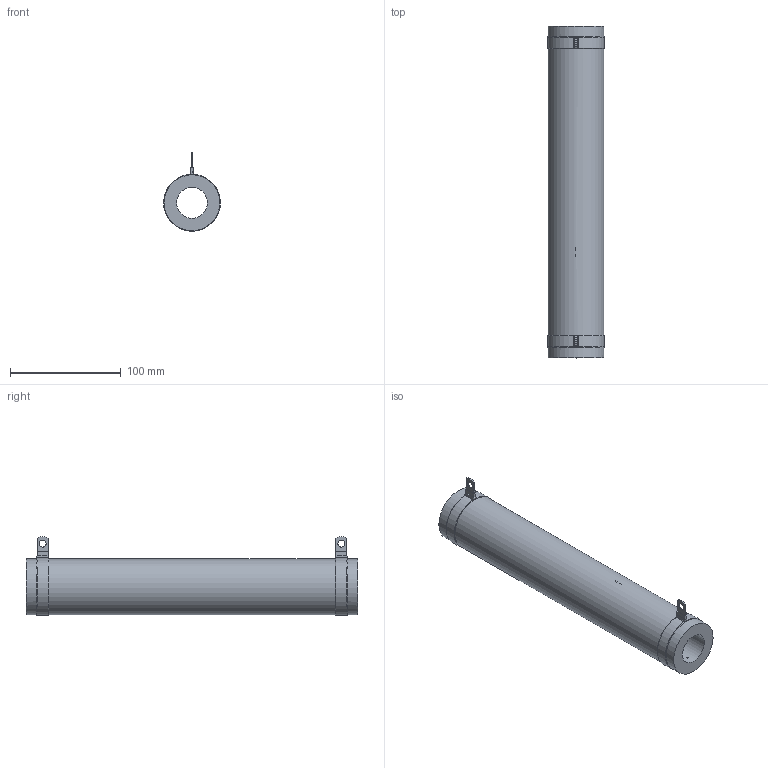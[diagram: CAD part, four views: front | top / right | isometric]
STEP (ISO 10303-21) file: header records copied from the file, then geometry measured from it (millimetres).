
FILE_DESCRIPTION(/* description */ (''),/* implementation_level */ '2;1');
FILE_NAME(/* name */ 'C:\_Vault\Dati\CATALOGO\RCA-RSA\25-1000\CA0500.stp',/* time_stamp */ '2014-01-22T15:25:15+01:00',/* author */ ('stefano'),/* organization */ (''),/* preprocessor_version */ 'ST-DEVELOPER v15.2',/* originating_system */ 'Autodesk Inventor 2014',/* authorisation */ '');
FILE_SCHEMA (('AUTOMOTIVE_DESIGN { 1 0 10303 214 3 1 1 }'));
Length unit declared in the file: millimetre
Products named in the file (1): CA0500
Bounding box: 51.46 x 300 x 70.99 mm (x, y, z)
Volume: 418338.1 mm3; surface area: 78063.2 mm2
Topology: 1 solids, 1 shells, 89 faces, 221 edges, 138 vertices
Faces by surface type: plane 45, cylinder 32, torus 12
Full cylindrical faces by diameter (mm): 3.2 x1, 6.3 x2, 28 x1, 50.5 x3
Entity records: 2806 total; most frequent: CARTESIAN_POINT 522, DIRECTION 466, ORIENTED_EDGE 424, EDGE_CURVE 212, AXIS2_PLACEMENT_3D 176, VERTEX_POINT 136, LINE 114, VECTOR 114
